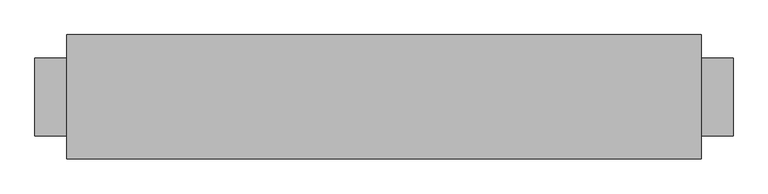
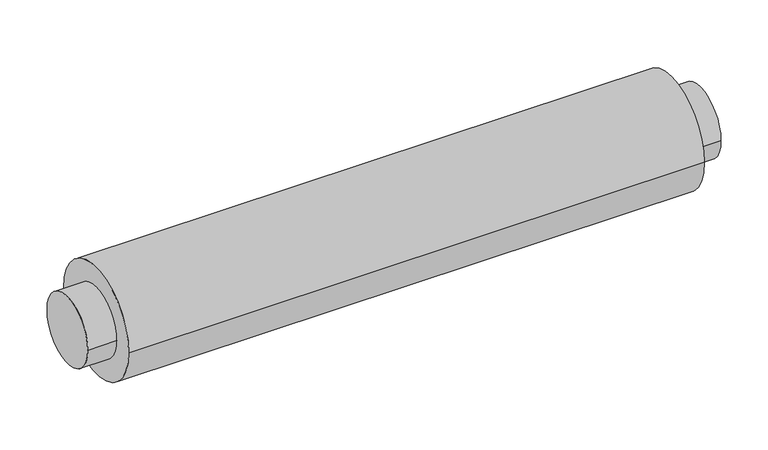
"""IFC4 building model written with IfcOpenShell, lengths in millimetres: damper geometry, VE-Tłumik_Akustyczny-ParaForma-Harmann-FLEXITEC : 125-1000."""

from ifc_helpers import new_model, si_unit, point, frame, origin, origin_2d, place, context, project, spatial, circle_curve, trimmed, segment, composite_curve, outline, extrude, source, transform, mapped, element, save


def damper_30e566fb(model_context):
    return source(origin(), model_context, "Body", "SweptSolid", [
        extrude(outline(composite_curve([segment(trimmed(circle_curve(origin_2d(), 61.5), [point((-61.5, 0.0))], [point((61.5, 0.0))], False, "CARTESIAN"), True, "CONTINUOUS"), segment(trimmed(circle_curve(origin_2d(), 61.5), [point((61.5, 0.0))], [point((-61.5, 0.0))], False, "CARTESIAN"), True, "CONTINUOUS")], self_intersect=False)), frame((500.0, 0.0, 0.0), z_axis=(1.0, 0.0, 0.0), x_axis=(0.0, 1.0, 0.0)), (0.0, 0.0, 1.0), 50.0),
        extrude(outline(composite_curve([segment(trimmed(circle_curve(origin_2d(), 61.5), [point((-61.5, 0.0))], [point((61.5, 0.0))], False, "CARTESIAN"), True, "CONTINUOUS"), segment(trimmed(circle_curve(origin_2d(), 61.5), [point((61.5, 0.0))], [point((-61.5, 0.0))], False, "CARTESIAN"), True, "CONTINUOUS")], self_intersect=False)), frame((-550.0, 0.0, 0.0), z_axis=(1.0, 0.0, 0.0), x_axis=(0.0, 1.0, 0.0)), (0.0, 0.0, 1.0), 50.0),
        extrude(outline(composite_curve([segment(trimmed(circle_curve(origin_2d(), 97.95), [point((-97.95, 0.0))], [point((97.95, 0.0))], False, "CARTESIAN"), True, "CONTINUOUS"), segment(trimmed(circle_curve(origin_2d(), 97.95), [point((97.95, 0.0))], [point((-97.95, 0.0))], False, "CARTESIAN"), True, "CONTINUOUS")], self_intersect=False)), frame((-500.0, 0.0, 0.0), z_axis=(1.0, 0.0, 0.0), x_axis=(0.0, 1.0, 0.0)), (0.0, 0.0, 1.0), 1000.0),
    ])


if __name__ == "__main__":
    model = new_model("IFC4")
    model_context = context("Model", 3, world=origin())
    ifc_project = project(units=[si_unit("LENGTHUNIT", "METRE", prefix="MILLI")], contexts=[model_context])
    site = spatial("IfcSite", under=ifc_project)
    building = spatial("IfcBuilding", under=site)
    placement = place(None, origin())
    damper_shape = damper_30e566fb(model_context)
    element("IfcDamper", 1, ObjectType="VE-Tłumik_Akustyczny-ParaForma-Harmann-FLEXITEC : 125-1000", at=placement, inside=building, context=model_context, shape_type="MappedRepresentation", body=[
        mapped(damper_shape, transform((0.0, 0.0, 0.0), x_axis=(1.0, 0.0, 0.0), y_axis=(0.0, 1.0, 0.0), z_axis=(0.0, 0.0, 1.0))),
    ])
    save(model, "model.ifc")
